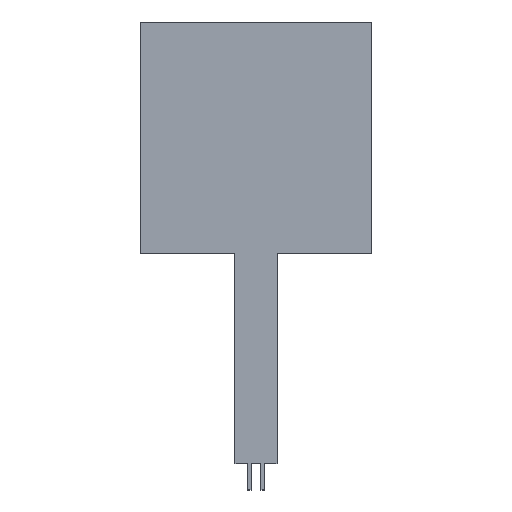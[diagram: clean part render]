
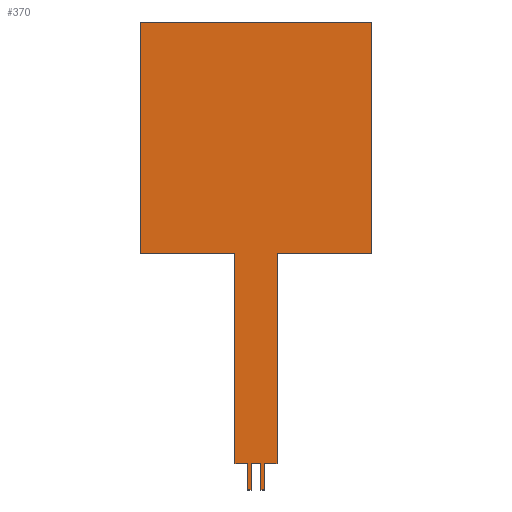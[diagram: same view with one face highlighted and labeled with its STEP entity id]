
A CAD part, top view. The second image highlights one B-rep face of the part: STEP entity #370.
In plain terms, the highlighted planar face has unit normal (0, 0, 1).
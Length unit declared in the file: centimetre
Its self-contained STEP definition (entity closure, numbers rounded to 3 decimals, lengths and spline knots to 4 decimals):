
#142=VERTEX_POINT('',#1260);
#143=VERTEX_POINT('',#1261);
#146=VERTEX_POINT('',#1269);
#148=VERTEX_POINT('',#1275);
#150=VERTEX_POINT('',#1281);
#152=VERTEX_POINT('',#1287);
#154=VERTEX_POINT('',#1293);
#156=VERTEX_POINT('',#1299);
#158=VERTEX_POINT('',#1305);
#160=VERTEX_POINT('',#1311);
#162=VERTEX_POINT('',#1317);
#164=VERTEX_POINT('',#1323);
#166=VERTEX_POINT('',#1329);
#168=VERTEX_POINT('',#1335);
#170=VERTEX_POINT('',#1341);
#172=VERTEX_POINT('',#1347);
#174=EDGE_CURVE('',#142,#143,#609,.T.);
#178=EDGE_CURVE('',#143,#146,#613,.T.);
#181=EDGE_CURVE('',#146,#148,#616,.T.);
#184=EDGE_CURVE('',#148,#150,#619,.T.);
#187=EDGE_CURVE('',#150,#152,#622,.T.);
#190=EDGE_CURVE('',#152,#154,#625,.T.);
#193=EDGE_CURVE('',#154,#156,#628,.T.);
#196=EDGE_CURVE('',#156,#158,#631,.T.);
#199=EDGE_CURVE('',#158,#160,#634,.T.);
#202=EDGE_CURVE('',#160,#162,#637,.T.);
#205=EDGE_CURVE('',#162,#164,#640,.T.);
#208=EDGE_CURVE('',#164,#166,#643,.T.);
#211=EDGE_CURVE('',#166,#168,#646,.T.);
#214=EDGE_CURVE('',#168,#170,#649,.T.);
#217=EDGE_CURVE('',#170,#172,#652,.T.);
#220=EDGE_CURVE('',#172,#142,#655,.T.);
#286=ORIENTED_EDGE('',*,*,#174,.F.);
#287=ORIENTED_EDGE('',*,*,#220,.F.);
#288=ORIENTED_EDGE('',*,*,#217,.F.);
#289=ORIENTED_EDGE('',*,*,#214,.F.);
#290=ORIENTED_EDGE('',*,*,#211,.F.);
#291=ORIENTED_EDGE('',*,*,#208,.F.);
#292=ORIENTED_EDGE('',*,*,#205,.F.);
#293=ORIENTED_EDGE('',*,*,#202,.F.);
#294=ORIENTED_EDGE('',*,*,#199,.F.);
#295=ORIENTED_EDGE('',*,*,#196,.F.);
#296=ORIENTED_EDGE('',*,*,#193,.F.);
#297=ORIENTED_EDGE('',*,*,#190,.F.);
#298=ORIENTED_EDGE('',*,*,#187,.F.);
#299=ORIENTED_EDGE('',*,*,#184,.F.);
#300=ORIENTED_EDGE('',*,*,#181,.F.);
#301=ORIENTED_EDGE('',*,*,#178,.F.);
#334=EDGE_LOOP('',(#286,#287,#288,#289,#290,#291,#292,#293,#294,#295,#296,
#297,#298,#299,#300,#301));
#352=FACE_BOUND('',#334,.T.);
#370=ADVANCED_FACE('',(#352),#986,.T.);
#609=LINE('',#1259,#918);
#613=LINE('',#1268,#922);
#616=LINE('',#1274,#925);
#619=LINE('',#1280,#928);
#622=LINE('',#1286,#931);
#625=LINE('',#1292,#934);
#628=LINE('',#1298,#937);
#631=LINE('',#1304,#940);
#634=LINE('',#1310,#943);
#637=LINE('',#1316,#946);
#640=LINE('',#1322,#949);
#643=LINE('',#1328,#952);
#646=LINE('',#1334,#955);
#649=LINE('',#1340,#958);
#652=LINE('',#1346,#961);
#655=LINE('',#1352,#964);
#863=AXIS2_PLACEMENT_3D('',#1354,#1164,$);
#918=VECTOR('',#1101,1.);
#922=VECTOR('',#1106,1.);
#925=VECTOR('',#1110,1.);
#928=VECTOR('',#1114,1.);
#931=VECTOR('',#1118,1.);
#934=VECTOR('',#1122,1.);
#937=VECTOR('',#1126,1.);
#940=VECTOR('',#1130,1.);
#943=VECTOR('',#1134,1.);
#946=VECTOR('',#1138,1.);
#949=VECTOR('',#1142,1.);
#952=VECTOR('',#1146,1.);
#955=VECTOR('',#1150,1.);
#958=VECTOR('',#1154,1.);
#961=VECTOR('',#1158,1.);
#964=VECTOR('',#1162,1.);
#986=PLANE('',#863);
#1101=DIRECTION('',(-1.,0.,0.));
#1106=DIRECTION('',(0.,-1.,0.));
#1110=DIRECTION('',(-1.,0.,0.));
#1114=DIRECTION('',(0.,1.,0.));
#1118=DIRECTION('',(-1.,0.,0.));
#1122=DIRECTION('',(0.,-1.,0.));
#1126=DIRECTION('',(-1.,0.,0.));
#1130=DIRECTION('',(0.,1.,0.));
#1134=DIRECTION('',(-1.,0.,0.));
#1138=DIRECTION('',(0.,1.,0.));
#1142=DIRECTION('',(-1.,0.,0.));
#1146=DIRECTION('',(0.,1.,0.));
#1150=DIRECTION('',(1.,0.,0.));
#1154=DIRECTION('',(0.,-1.,0.));
#1158=DIRECTION('',(-1.,0.,0.));
#1162=DIRECTION('',(0.,-1.,0.));
#1164=DIRECTION('',(0.,0.,1.));
#1259=CARTESIAN_POINT('',(-0.245,0.,0.02));
#1260=CARTESIAN_POINT('',(0.,0.,0.02));
#1261=CARTESIAN_POINT('',(-0.245,0.,0.02));
#1268=CARTESIAN_POINT('',(-0.245,-0.5,0.02));
#1269=CARTESIAN_POINT('',(-0.245,-0.5,0.02));
#1274=CARTESIAN_POINT('',(-0.305,-0.5,0.02));
#1275=CARTESIAN_POINT('',(-0.305,-0.5,0.02));
#1280=CARTESIAN_POINT('',(-0.305,0.,0.02));
#1281=CARTESIAN_POINT('',(-0.305,0.,0.02));
#1286=CARTESIAN_POINT('',(-0.495,0.,0.02));
#1287=CARTESIAN_POINT('',(-0.495,0.,0.02));
#1292=CARTESIAN_POINT('',(-0.495,-0.5,0.02));
#1293=CARTESIAN_POINT('',(-0.495,-0.5,0.02));
#1298=CARTESIAN_POINT('',(-0.555,-0.5,0.02));
#1299=CARTESIAN_POINT('',(-0.555,-0.5,0.02));
#1304=CARTESIAN_POINT('',(-0.555,0.,0.02));
#1305=CARTESIAN_POINT('',(-0.555,0.,0.02));
#1310=CARTESIAN_POINT('',(-0.8,0.,0.02));
#1311=CARTESIAN_POINT('',(-0.8,0.,0.02));
#1316=CARTESIAN_POINT('',(-0.8,4.,0.02));
#1317=CARTESIAN_POINT('',(-0.8,4.,0.02));
#1322=CARTESIAN_POINT('',(-2.6,4.,0.02));
#1323=CARTESIAN_POINT('',(-2.6,4.,0.02));
#1328=CARTESIAN_POINT('',(-2.6,8.4,0.02));
#1329=CARTESIAN_POINT('',(-2.6,8.4,0.02));
#1334=CARTESIAN_POINT('',(1.8,8.4,0.02));
#1335=CARTESIAN_POINT('',(1.8,8.4,0.02));
#1340=CARTESIAN_POINT('',(1.8,4.,0.02));
#1341=CARTESIAN_POINT('',(1.8,4.,0.02));
#1346=CARTESIAN_POINT('',(0.,4.,0.02));
#1347=CARTESIAN_POINT('',(0.,4.,0.02));
#1352=CARTESIAN_POINT('',(0.,0.,0.02));
#1354=CARTESIAN_POINT('',(-0.4,4.3971,0.02));
